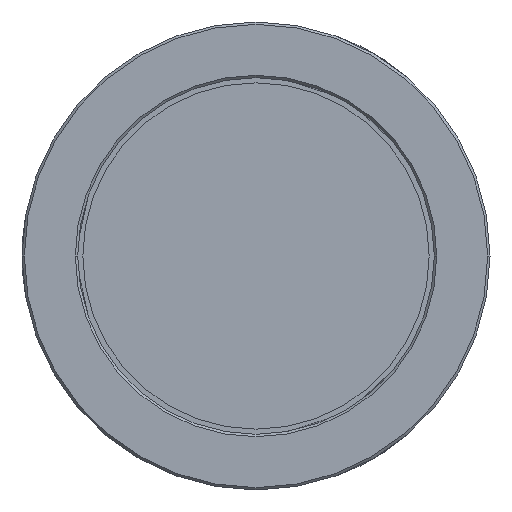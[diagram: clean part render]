
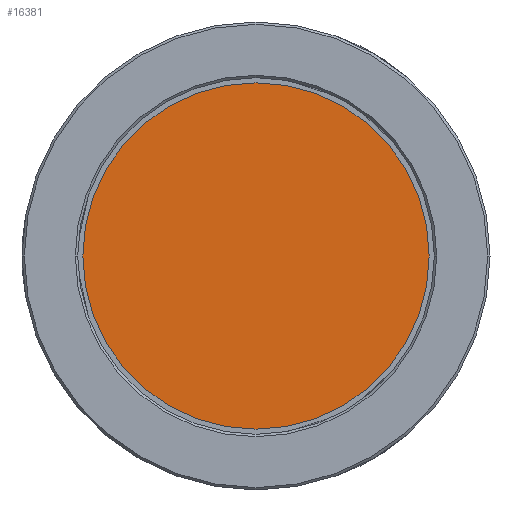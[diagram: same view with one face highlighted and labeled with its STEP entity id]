
A CAD part, left-side view. The second image highlights one B-rep face of the part: STEP entity #16381.
In plain terms, the highlighted planar face has unit normal (-1, 0, 0).
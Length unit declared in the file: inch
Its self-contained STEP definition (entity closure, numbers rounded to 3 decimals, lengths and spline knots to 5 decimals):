
#14 = DIRECTION ( 'NONE',  ( 0., 1., 0. ) ) ;
#1792 = CARTESIAN_POINT ( 'NONE',  ( 0.24122, 0., 0. ) ) ;
#1869 = EDGE_LOOP ( 'NONE', ( #6377, #11223 ) ) ;
#3567 = AXIS2_PLACEMENT_3D ( 'NONE', #16225, #3942, #14 ) ;
#3942 = DIRECTION ( 'NONE',  ( 1., 0., 0. ) ) ;
#4125 = CIRCLE ( 'NONE', #3567, 0.84646 ) ;
#4563 = PLANE ( 'NONE',  #12631 ) ;
#5210 = VERTEX_POINT ( 'NONE', #7635 ) ;
#6377 = ORIENTED_EDGE ( 'NONE', *, *, #10384, .F. ) ;
#7080 = DIRECTION ( 'NONE',  ( -1., 0., 0. ) ) ;
#7164 = FACE_OUTER_BOUND ( 'NONE', #1869, .T. ) ;
#7223 = DIRECTION ( 'NONE',  ( 1., 0., 0. ) ) ;
#7635 = CARTESIAN_POINT ( 'NONE',  ( 0.24122, -0.84646, 0. ) ) ;
#8040 = CARTESIAN_POINT ( 'NONE',  ( 0.24122, 0.84646, 0. ) ) ;
#8139 = AXIS2_PLACEMENT_3D ( 'NONE', #1792, #7223, #10918 ) ;
#9299 = CIRCLE ( 'NONE', #8139, 0.84646 ) ;
#9633 = VERTEX_POINT ( 'NONE', #8040 ) ;
#10161 = EDGE_CURVE ( 'NONE', #5210, #9633, #4125, .T. ) ;
#10219 = CARTESIAN_POINT ( 'NONE',  ( 0.24122, 0., 0. ) ) ;
#10384 = EDGE_CURVE ( 'NONE', #9633, #5210, #9299, .T. ) ;
#10918 = DIRECTION ( 'NONE',  ( 0., 1., 0. ) ) ;
#11223 = ORIENTED_EDGE ( 'NONE', *, *, #10161, .F. ) ;
#11302 = DIRECTION ( 'NONE',  ( 0., -1., 0. ) ) ;
#12631 = AXIS2_PLACEMENT_3D ( 'NONE', #10219, #7080, #11302 ) ;
#16225 = CARTESIAN_POINT ( 'NONE',  ( 0.24122, 0., 0. ) ) ;
#16381 = ADVANCED_FACE ( 'NONE', ( #7164 ), #4563, .T. ) ;
